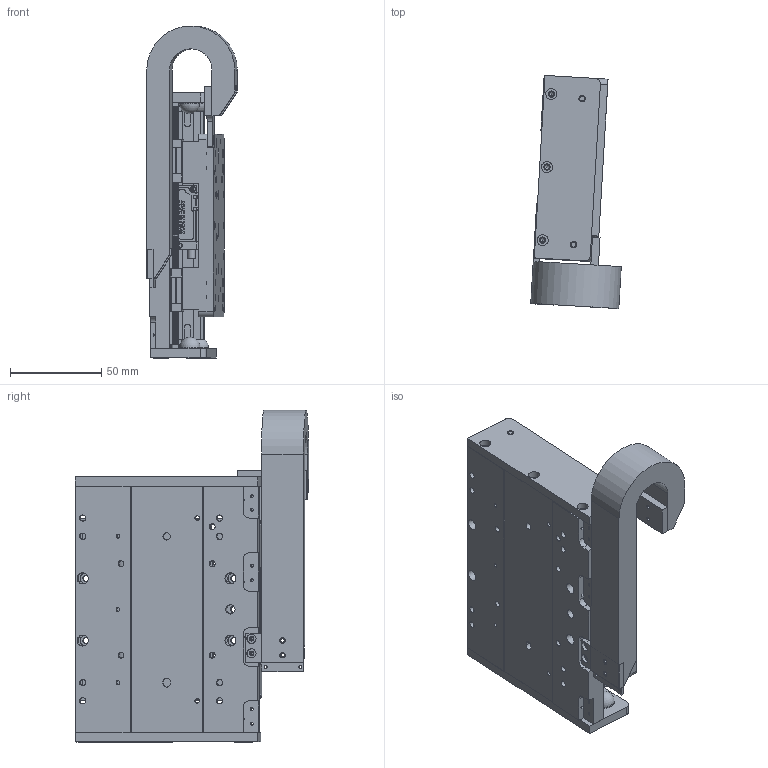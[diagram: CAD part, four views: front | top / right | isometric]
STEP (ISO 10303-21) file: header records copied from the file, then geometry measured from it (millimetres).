
FILE_DESCRIPTION(/* description */ (''),/* implementation_level */ '2;1');
FILE_NAME(/* name */ 'I:\FY15 Projects\MSR\MSR100\mSR100L-025XLSXXXXXXCM13.stp',/* time_stamp */ '2015-02-18T13:04:43-05:00',/* author */ ('BF20108'),/* organization */ (''),/* preprocessor_version */ 'ST-DEVELOPER v15.2',/* originating_system */ 'Autodesk Inventor 2014',/* authorisation */ '');
FILE_SCHEMA (('AUTOMOTIVE_DESIGN { 1 0 10303 214 3 1 1 }'));
Products named in the file (17): 102-5710-01; 003-3562-33; 102-5702-01; ml18-120m-n; 102-5703-01; 102-5705-01; 002-3740-01; 102-5701; 003-3561; ML18-3E; 003-5000; 002-3740-short-carriage-assy; mx100-mcb; mx100-scb; e045-16-018-carrier-01; 002-3740-cbl-carr-sc-01; 002-3740
Bounding box: 49.52 x 127.62 x 181.62 mm (x, y, z)
Volume: 343931.4 mm3; surface area: 168631.6 mm2
Topology: 22 solids, 23 shells, 1800 faces, 4917 edges, 3205 vertices
Faces by surface type: plane 1060, cylinder 569, cone 111, torus 48, bspline 8, sphere 4
Full cylindrical faces by diameter (mm): 0.5 x8, 1 x4, 1.567 x47, 1.588 x2, 2.007 x12, 2.013 x7, 2.135 x4, 2.4 x18, 2.459 x20, 2.5 x20, 2.642 x4, 2.75 x1, 3 x17, 3.242 x15, 3.4 x20, 3.505 x4, 4 x4, 4.17 x2, 4.2 x19, 4.5 x18, 5 x8, 5.08 x2, 6 x24, 11.176 x4
Entity records: 46429 total; most frequent: CARTESIAN_POINT 8765, DIRECTION 7701, ORIENTED_EDGE 7354, EDGE_CURVE 3667, AXIS2_PLACEMENT_3D 2605, VERTEX_POINT 2545, LINE 2491, VECTOR 2491
